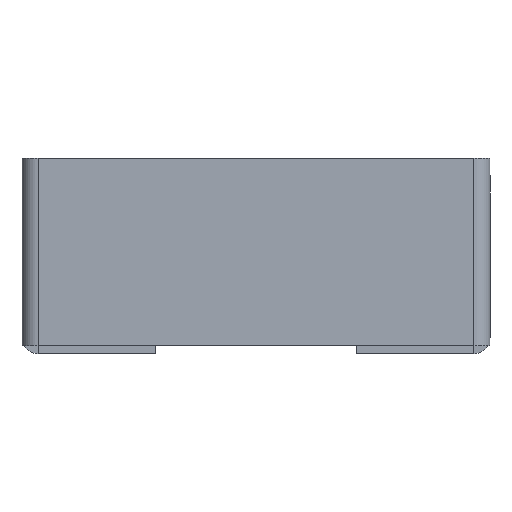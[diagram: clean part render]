
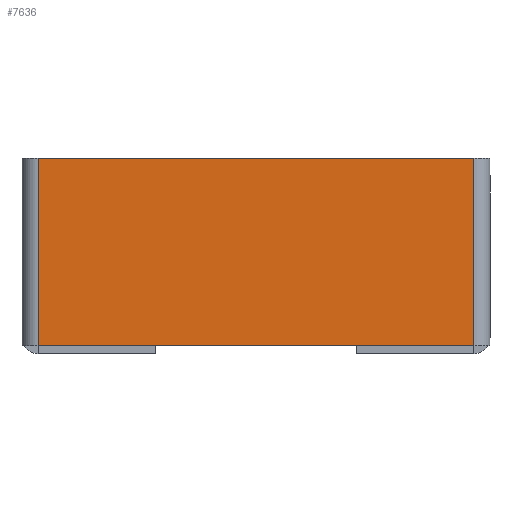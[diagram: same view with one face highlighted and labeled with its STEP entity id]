
A CAD part, front view. The second image highlights one B-rep face of the part: STEP entity #7636.
In plain terms, the highlighted planar face has unit normal (0, -1, 0).
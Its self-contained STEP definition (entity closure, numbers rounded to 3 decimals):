
#68 = EDGE_CURVE ( 'NONE', #3974, #5956, #1996, .T. ) ;
#214 = CARTESIAN_POINT ( 'NONE',  ( 67.5, -2.5, -58. ) ) ;
#273 = VECTOR ( 'NONE', #2925, 1000. ) ;
#299 = CARTESIAN_POINT ( 'NONE',  ( 67.5, -2.5, -58. ) ) ;
#723 = CARTESIAN_POINT ( 'NONE',  ( -70., -2.5, -58. ) ) ;
#1077 = ORIENTED_EDGE ( 'NONE', *, *, #8307, .F. ) ;
#1996 = LINE ( 'NONE', #214, #7702 ) ;
#2181 = DIRECTION ( 'NONE',  ( -1., 0., 0. ) ) ;
#2672 = VERTEX_POINT ( 'NONE', #5507 ) ;
#2754 = PLANE ( 'NONE',  #9078 ) ;
#2798 = VECTOR ( 'NONE', #7733, 1000. ) ;
#2812 = VERTEX_POINT ( 'NONE', #4228 ) ;
#2854 = DIRECTION ( 'NONE',  ( 0., 1., 0. ) ) ;
#2860 = ORIENTED_EDGE ( 'NONE', *, *, #2987, .F. ) ;
#2925 = DIRECTION ( 'NONE',  ( 1., 0., 0. ) ) ;
#2947 = LINE ( 'NONE', #723, #8665 ) ;
#2987 = EDGE_CURVE ( 'NONE', #2672, #5956, #3871, .T. ) ;
#3871 = LINE ( 'NONE', #5082, #273 ) ;
#3974 = VERTEX_POINT ( 'NONE', #299 ) ;
#4228 = CARTESIAN_POINT ( 'NONE',  ( -67.5, -2.5, -58. ) ) ;
#4668 = ORIENTED_EDGE ( 'NONE', *, *, #9644, .T. ) ;
#4755 = CARTESIAN_POINT ( 'NONE',  ( -67.5, -2.5, 0. ) ) ;
#5073 = ORIENTED_EDGE ( 'NONE', *, *, #68, .T. ) ;
#5082 = CARTESIAN_POINT ( 'NONE',  ( -70., -2.5, 0. ) ) ;
#5243 = LINE ( 'NONE', #4755, #2798 ) ;
#5317 = CARTESIAN_POINT ( 'NONE',  ( 67.5, -2.5, 0. ) ) ;
#5419 = DIRECTION ( 'NONE',  ( 0., 0., 1. ) ) ;
#5507 = CARTESIAN_POINT ( 'NONE',  ( -67.5, -2.5, 0. ) ) ;
#5956 = VERTEX_POINT ( 'NONE', #5317 ) ;
#6471 = DIRECTION ( 'NONE',  ( 0., 0., 1. ) ) ;
#7366 = FACE_OUTER_BOUND ( 'NONE', #8878, .T. ) ;
#7636 = ADVANCED_FACE ( 'NONE', ( #7366 ), #2754, .F. ) ;
#7702 = VECTOR ( 'NONE', #5419, 1000. ) ;
#7733 = DIRECTION ( 'NONE',  ( 0., 0., -1. ) ) ;
#8307 = EDGE_CURVE ( 'NONE', #3974, #2812, #2947, .T. ) ;
#8665 = VECTOR ( 'NONE', #2181, 1000. ) ;
#8878 = EDGE_LOOP ( 'NONE', ( #4668, #1077, #5073, #2860 ) ) ;
#9078 = AXIS2_PLACEMENT_3D ( 'NONE', #9418, #2854, #6471 ) ;
#9418 = CARTESIAN_POINT ( 'NONE',  ( 0., -2.5, 0. ) ) ;
#9644 = EDGE_CURVE ( 'NONE', #2672, #2812, #5243, .T. ) ;
